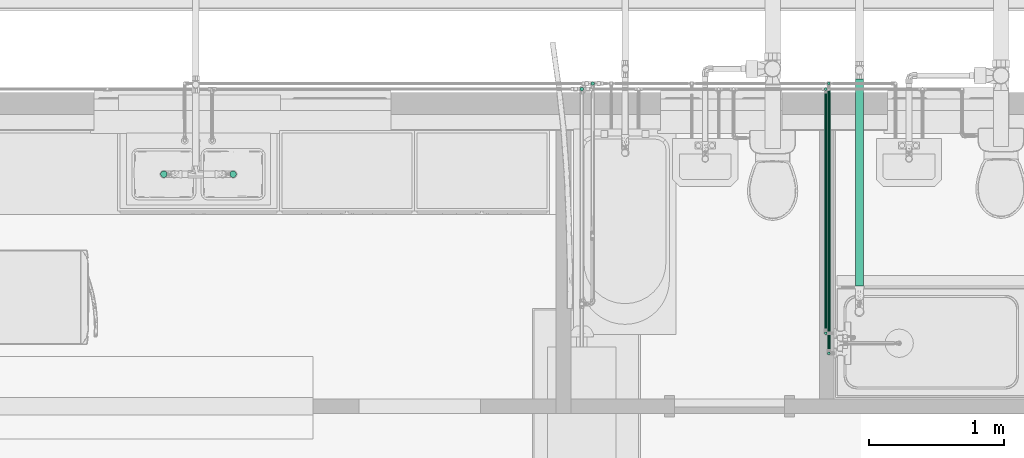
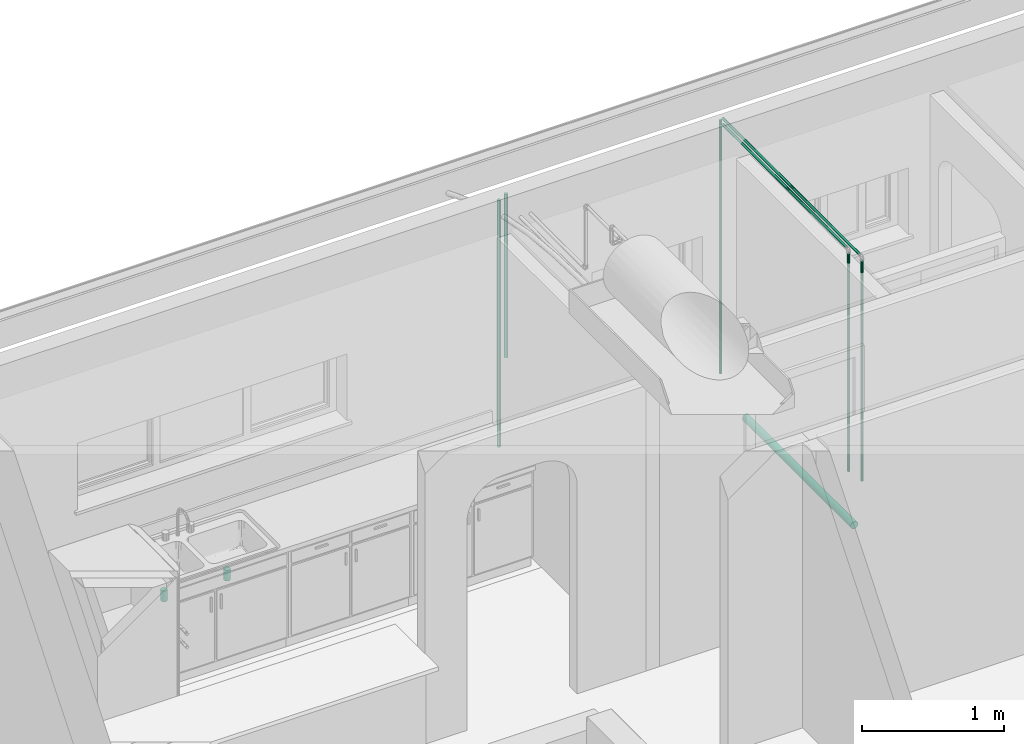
# One storey, part 17 of 41: 11 flow segments.
"""IFC2X3 building model written with IfcOpenShell, lengths in millimetres."""

from ifc_helpers import new_model, entity, si_unit, converted_unit, derived_unit, direction, frame, frame_2d, origin, origin_2d_with_axis, place, context, subcontext, project, spatial, circle, extrude, type_object, element, save


model = new_model("IFC2X3")

# Units and contexts
model_context = context("Model", 3, precision=0.01, world=origin(), true_north=direction((6.12303176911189e-17, 1.0)))
body_context = subcontext(model_context, "Body", "Model", "MODEL_VIEW")
ifc_project = project(units=[si_unit("LENGTHUNIT", "METRE", prefix="MILLI"), si_unit("AREAUNIT", "SQUARE_METRE"), si_unit("VOLUMEUNIT", "CUBIC_METRE"), converted_unit("PLANEANGLEUNIT", "DEGREE", entity("IfcRatioMeasure", 0.0174532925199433), si_unit("PLANEANGLEUNIT", "RADIAN"), dimensions=[0, 0, 0, 0, 0, 0, 0]), si_unit("MASSUNIT", "GRAM", prefix="KILO"), derived_unit("MASSDENSITYUNIT", [(si_unit("MASSUNIT", "GRAM", prefix="KILO"), 1), (si_unit("LENGTHUNIT", "METRE"), -3)]), si_unit("TIMEUNIT", "SECOND"), si_unit("FREQUENCYUNIT", "HERTZ"), si_unit("THERMODYNAMICTEMPERATUREUNIT", "DEGREE_CELSIUS"), derived_unit("THERMALTRANSMITTANCEUNIT", [(si_unit("MASSUNIT", "GRAM", prefix="KILO"), 1), (si_unit("THERMODYNAMICTEMPERATUREUNIT", "KELVIN"), -1), (si_unit("TIMEUNIT", "SECOND"), -3)]), derived_unit("VOLUMETRICFLOWRATEUNIT", [(si_unit("LENGTHUNIT", "METRE"), 3), (si_unit("TIMEUNIT", "SECOND"), -1)]), si_unit("ELECTRICCURRENTUNIT", "AMPERE"), si_unit("ELECTRICVOLTAGEUNIT", "VOLT"), si_unit("POWERUNIT", "WATT"), si_unit("FORCEUNIT", "NEWTON", prefix="KILO"), si_unit("ILLUMINANCEUNIT", "LUX"), si_unit("LUMINOUSFLUXUNIT", "LUMEN"), si_unit("LUMINOUSINTENSITYUNIT", "CANDELA"), derived_unit("USERDEFINED", [(si_unit("MASSUNIT", "GRAM", prefix="KILO"), -1), (si_unit("LENGTHUNIT", "METRE"), -2), (si_unit("TIMEUNIT", "SECOND"), 3), (si_unit("LUMINOUSFLUXUNIT", "LUMEN"), 1)]), derived_unit("LINEARVELOCITYUNIT", [(si_unit("LENGTHUNIT", "METRE"), 1), (si_unit("TIMEUNIT", "SECOND"), -1)]), si_unit("PRESSUREUNIT", "PASCAL"), derived_unit("USERDEFINED", [(si_unit("LENGTHUNIT", "METRE"), -2), (si_unit("MASSUNIT", "GRAM", prefix="KILO"), 1), (si_unit("TIMEUNIT", "SECOND"), -2)])], contexts=[model_context])

# Site, building, storey
site_placement = place(None, origin())
site = spatial("IfcSite", under=ifc_project, at=site_placement, Name="Surface", CompositionType="ELEMENT")
building_placement = place(site_placement, origin())
building = spatial("IfcBuilding", under=site, at=building_placement, CompositionType="ELEMENT")
storey_placement = place(building_placement, frame((0.0, 0.0, 300.0)))
storey = spatial("IfcBuildingStorey", under=building, at=storey_placement, Name="F.F.L", CompositionType="ELEMENT", Elevation=300.0)

# Flow segments
pipe_segment_type = type_object("IfcPipeSegmentType", Name="Pipe Types:PVC80", PredefinedType="NOTDEFINED")
flow_segment_1_placement = place(storey_placement, origin())
element("IfcFlowSegment", 1, at=flow_segment_1_placement, inside=storey, type_object=pipe_segment_type, Name="Pipe Types:PVC80", ObjectType="Pipe Types:PVC80", context=body_context, shape_type="SweptSolid", body=[
    extrude(circle(Radius=13.335, at=origin_2d_with_axis()), frame((-4396.87517007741, 10850.8400891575, 415.737400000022), z_axis=(0.0, 0.0, 1.0), x_axis=(-1.0, 0.0, 0.0)), (0.0, 0.0, 1.0), 2128.93754999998),
])
flow_segment_2_placement = place(storey_placement, origin())
element("IfcFlowSegment", 2, at=flow_segment_2_placement, inside=storey, type_object=pipe_segment_type, Name="Pipe Types:PVC80", ObjectType="Pipe Types:PVC80", context=body_context, shape_type="SweptSolid", body=[
    extrude(circle(Radius=10.668, at=origin_2d_with_axis()), frame((-2588.51270991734, 9075.89240747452, 2580.0), z_axis=(0.0, 1.0, 0.0), x_axis=(1.0, 0.0, 0.0)), (0.0, 0.0, 1.0), 1741.21013168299),
])
flow_segment_3_placement = place(storey_placement, origin())
element("IfcFlowSegment", 3, at=flow_segment_3_placement, inside=storey, type_object=pipe_segment_type, Name="Pipe Types:PVC80", ObjectType="Pipe Types:PVC80", context=body_context, shape_type="SweptSolid", body=[
    extrude(circle(Radius=10.668, at=origin_2d_with_axis()), frame((-2588.5127099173, 10850.8400891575, 414.950000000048), z_axis=(0.0, 0.0, 1.0), x_axis=(-1.0, 0.0, 0.0)), (0.0, 0.0, 1.0), 2131.31244999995),
])
flow_segment_4_placement = place(storey_placement, origin())
element("IfcFlowSegment", 4, at=flow_segment_4_placement, inside=storey, type_object=pipe_segment_type, Name="Pipe Types:PVC80", ObjectType="Pipe Types:PVC80", context=body_context, shape_type="SweptSolid", body=[
    extrude(circle(Radius=10.668, at=frame_2d((-1.35358391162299e-11, 0.0), x_axis=(1.0, 0.0))), frame((-2566.01270991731, 8926.87054212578, 2600.0), z_axis=(0.0, 1.0, 0.0), x_axis=(-1.0, 0.0, 0.0)), (0.0, 0.0, 1.0), 1931.64864538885),
])
flow_segment_5_placement = place(storey_placement, origin())
element("IfcFlowSegment", 5, at=flow_segment_5_placement, inside=storey, type_object=pipe_segment_type, Name="Pipe Types:PVC80", ObjectType="Pipe Types:PVC80", context=body_context, shape_type="SweptSolid", body=[
    extrude(circle(Radius=10.668, at=origin_2d_with_axis()), frame((-2566.0127099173, 10892.2567375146, 1131.74999999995), z_axis=(0.0, 0.0, 1.0), x_axis=(-1.0, 0.0, 0.0)), (0.0, 0.0, 1.0), 1434.51245000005),
])
flow_segment_6_placement = place(storey_placement, origin())
element("IfcFlowSegment", 6, at=flow_segment_6_placement, inside=storey, type_object=pipe_segment_type, Name="Pipe Types:PVC80", ObjectType="Pipe Types:PVC80", context=body_context, shape_type="SweptSolid", body=[
    extrude(circle(Radius=10.668, at=origin_2d_with_axis()), frame((-2566.01270991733, 8893.13299212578, 667.561787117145)), (0.0, 0.0, 1.0), 1898.70066288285),
])
flow_segment_7_placement = place(storey_placement, origin())
element("IfcFlowSegment", 7, at=flow_segment_7_placement, inside=storey, type_object=pipe_segment_type, Name="Pipe Types:PVC80", ObjectType="Pipe Types:PVC80", context=body_context, shape_type="SweptSolid", body=[
    extrude(circle(Radius=10.668, at=origin_2d_with_axis()), frame((-2588.51270991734, 9042.15485747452, 667.561787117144)), (0.0, 0.0, 1.0), 1878.70066288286),
])
flow_segment_8_placement = place(storey_placement, origin())
element("IfcFlowSegment", 8, at=flow_segment_8_placement, inside=storey, type_object=pipe_segment_type, Name="Pipe Types:PVC80", ObjectType="Pipe Types:PVC80", context=body_context, shape_type="SweptSolid", body=[
    extrude(circle(Radius=24.13, at=origin_2d_with_axis()), frame((-7493.60017007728, 10220.2400891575, 557.143374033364)), (0.0, 0.0, 1.0), 93.3316259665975),
])
flow_segment_9_placement = place(storey_placement, origin())
element("IfcFlowSegment", 9, at=flow_segment_9_placement, inside=storey, type_object=pipe_segment_type, Name="Pipe Types:PVC80", ObjectType="Pipe Types:PVC80", context=body_context, shape_type="SweptSolid", body=[
    extrude(circle(Radius=24.13, at=origin_2d_with_axis()), frame((-6980.15017007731, 10220.2400891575, 557.143374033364)), (0.0, 0.0, 1.0), 93.3316259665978),
])
flow_segment_10_placement = place(storey_placement, origin())
element("IfcFlowSegment", 10, at=flow_segment_10_placement, inside=storey, type_object=pipe_segment_type, Name="Pipe Types:PVC80", ObjectType="Pipe Types:PVC80", context=body_context, shape_type="SweptSolid", body=[
    extrude(circle(Radius=13.335, at=origin_2d_with_axis()), frame((-4315.02521810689, 10892.25673255, 1132.53739999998), z_axis=(4.7602111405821e-08, -1.38998254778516e-05, 1.0), x_axis=(-1.0, 0.0, 4.76021114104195e-08)), (0.0, 0.0, 1.0), 1412.13779210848),
])
flow_segment_11_placement = place(storey_placement, origin())
element("IfcFlowSegment", 11, at=flow_segment_11_placement, inside=storey, type_object=pipe_segment_type, Name="Pipe Types:PVC80", ObjectType="Pipe Types:PVC80", context=body_context, shape_type="SweptSolid", body=[
    extrude(circle(Radius=30.1625, at=frame_2d((2.70716782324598e-13, -3.38395977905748e-14), x_axis=(1.0, 0.0))), frame((-2339.80584220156, 9391.02112642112, -99.3355733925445), z_axis=(0.0, 1.0, 0.0), x_axis=(1.0, 0.0, 0.0)), (0.0, 0.0, 1.0), 1535.70625000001),
])

save(model, "model.ifc")
